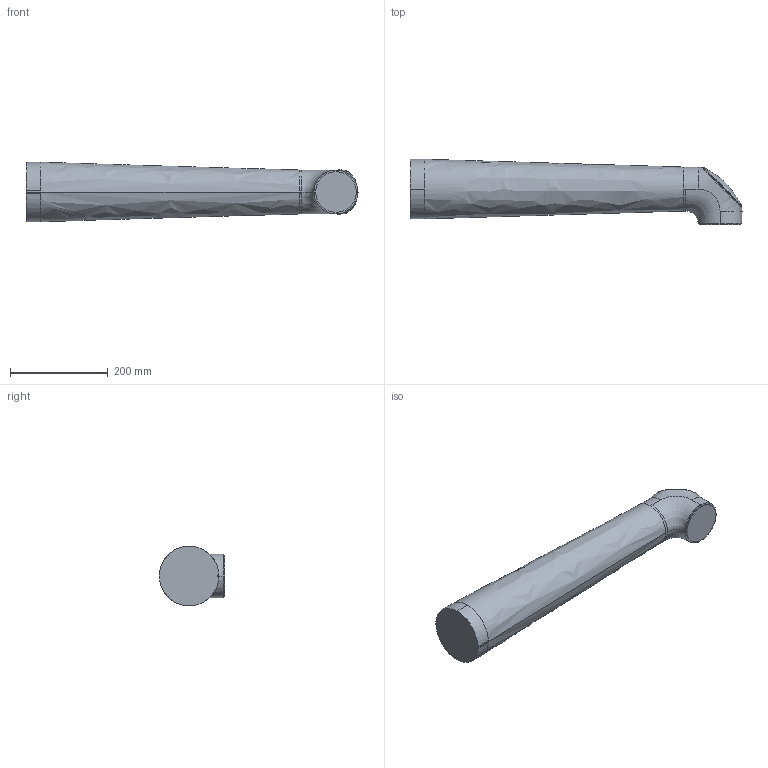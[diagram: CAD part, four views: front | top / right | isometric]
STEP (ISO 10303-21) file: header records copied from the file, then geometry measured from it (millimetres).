
FILE_DESCRIPTION (( 'STEP AP214' ), '1' );
FILE_NAME ('CRB1920_16kg-1960_OmniCore_rev00_Link4.step', '2026-03-06T03:42:04', ( '' ), ( '' ), 'SwSTEP 2.0', 'SolidWorks 2022', '' );
FILE_SCHEMA (( 'AUTOMOTIVE_DESIGN' ));
Length unit declared in the file: millimetre
Products named in the file (1): CRB1920_16kg-1960_OmniCore_rev00_Link4
Bounding box: 680.06 x 134.08 x 122 mm (x, y, z)
Volume: 5880119.2 mm3; surface area: 244744.9 mm2
Topology: 1 solids, 1 shells, 417 faces, 1105 edges, 721 vertices
Faces by surface type: bspline 370, plane 28, cylinder 17, cone 2
Entity records: 61808 total; most frequent: CARTESIAN_POINT 54154, ORIENTED_EDGE 2206, EDGE_CURVE 1103, B_SPLINE_CURVE_WITH_KNOTS 990, VERTEX_POINT 721, EDGE_LOOP 450, FACE_OUTER_BOUND 417, ADVANCED_FACE 417
